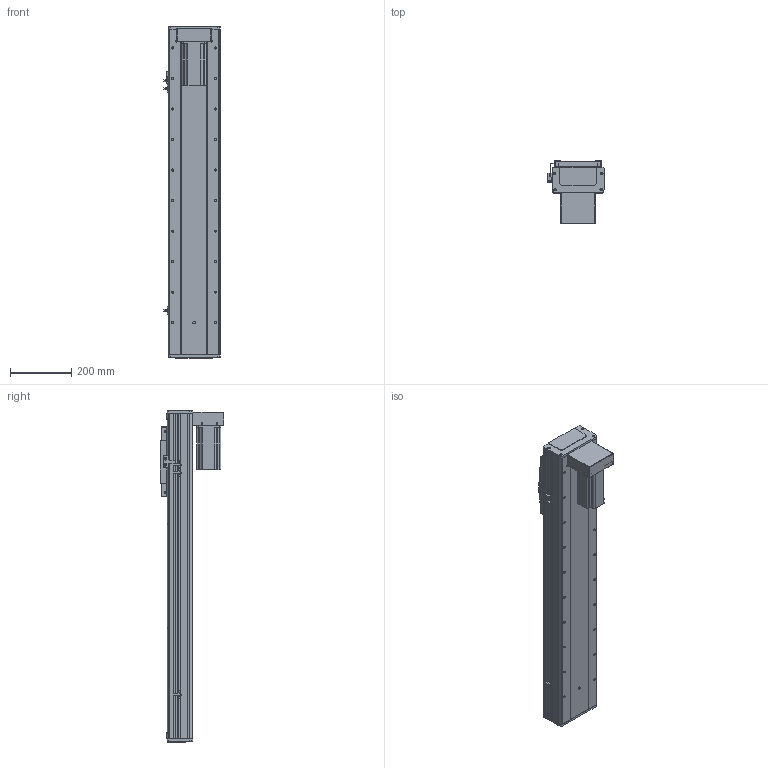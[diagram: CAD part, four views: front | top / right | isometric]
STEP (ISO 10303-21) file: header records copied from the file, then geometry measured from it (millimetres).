
FILE_DESCRIPTION (( 'STEP AP203' ), '1' );
FILE_NAME ('RY170F-L2010-300-BK.SLDASM_750.step', '2021-03-02T08:56:01', ( '盈信电脑' ), ( '东莞市道滘镇水果街19号' ), 'SwSTEP 2.0', 'SolidWorks 2012', '' );
FILE_SCHEMA (( 'CONFIG_CONTROL_DESIGN' ));
Length unit declared in the file: millimetre
Products named in the file (20): 滅袉蝶18-24; RY170F-詩湍揤踡輸; 侐源滅袉蝶; RY170F俋离覜茼え; RY170F-揤踡謫假蚾粣; 覜茼ん672; RY170F-綴裔啣; 滅袉蝶18-10; RY170F-丝杆铝滑块连接板; RY100F-詩湍揤踡謫; RY170F-300眻蟀倰第菁釱-BK_750; RY170F-300眻蟀倰第奻裔啣-BK_750; RY170F-佪裝臏賑輸20蹟譫; RY170F-滅鳥奻裔; RY170F-300眻蟀祥凄詩湍-MK_750; RY170F-狟殏萇儂假蚾啣(750W); RY170F-L2010-300-BK.SLDASM_750; RY170F狟殏萇儂欶; RY170狟殏詩湍假蚾輸; 怢湛750W萇儂ㄗ80遺ㄘ
Assembly tree (25 placements, depth 2):
  RY170F-L2010-300-BK.SLDASM_750
    RY170F-300眻蟀祥凄詩湍-MK_750
    RY170F-300眻蟀倰第奻裔啣-BK_750  x2
    RY170F-滅鳥奻裔
    RY170F-300眻蟀倰第菁釱-BK_750
    RY170F-佪裝臏賑輸20蹟譫
    RY170F-丝杆铝滑块连接板
    滅袉蝶18-10
    RY100F-詩湍揤踡謫
    RY170F-綴裔啣  x2
    覜茼ん672  x3
    RY170F俋离覜茼え
    RY170F-揤踡謫假蚾粣
    RY170F-詩湍揤踡輸  x2
    滅袉蝶18-24
    侐源滅袉蝶  x2
    RY170F-狟殏萇儂假蚾啣(750W)
    怢湛750W萇儂ㄗ80遺ㄘ
    RY170F狟殏萇儂欶
    RY170狟殏詩湍假蚾輸
Bounding box: 183.7 x 208 x 1088 mm (x, y, z)
Volume: 6471746 mm3; surface area: 2106890 mm2
Topology: 25 solids, 25 shells, 1858 faces, 5137 edges, 3258 vertices
Faces by surface type: cylinder 884, plane 762, cone 208, bspline 4
Entity records: 51904 total; most frequent: CARTESIAN_POINT 10342, DIRECTION 8434, ORIENTED_EDGE 8014, EDGE_CURVE 4007, AXIS2_PLACEMENT_3D 3046, VERTEX_POINT 2614, VECTOR 2342, LINE 2342
